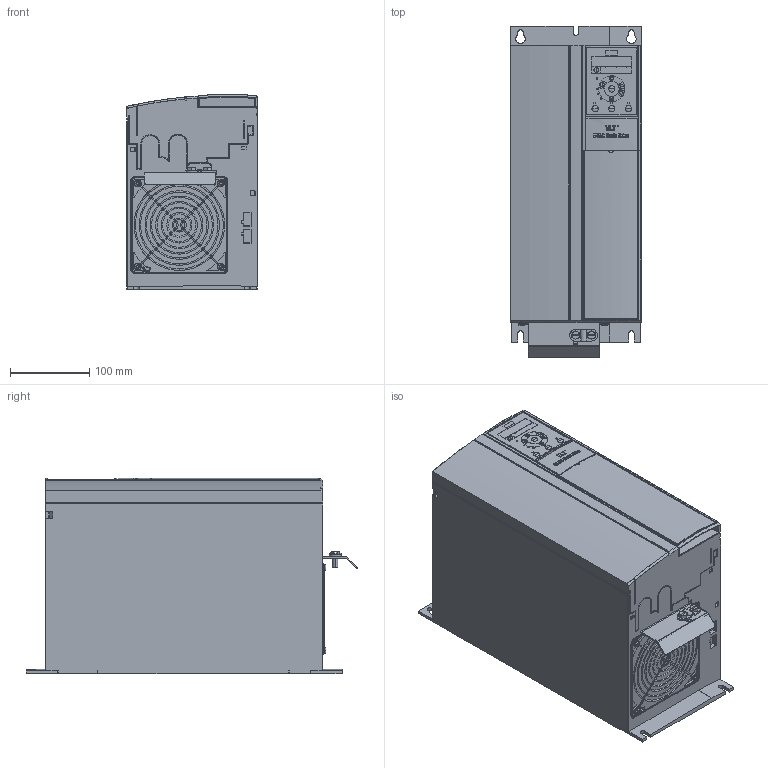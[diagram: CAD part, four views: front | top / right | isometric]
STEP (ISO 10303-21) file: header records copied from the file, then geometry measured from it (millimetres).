
FILE_DESCRIPTION((''),'2;1');
FILE_NAME('ASM0002_ASM','2011-09-09T',('cstephenkumar'),('Be-Atch INC. 1993'),'PRO/ENGINEER BY PARAMETRIC TECHNOLOGY CORPORATION, 2009360','PRO/ENGINEER BY PARAMETRIC TECHNOLOGY CORPORATION, 2009360','');
FILE_SCHEMA(('AUTOMOTIVE_DESIGN { 1 0 10303 214 1 1 1 1 }'));
Products named in the file (2): DANFOSS-FC101-H10-IP20_54; ASM0002_ASM
Assembly tree (1 placements, depth 2):
  ASM0002_ASM
    DANFOSS-FC101-H10-IP20_54
Bounding box: 165.09 x 419 x 247.45 mm (x, y, z)
Volume: 13834610.3 mm3; surface area: 481022.4 mm2
Topology: 1 solids, 1 shells, 2664 faces, 6783 edges, 4074 vertices
Faces by surface type: plane 1006, cylinder 965, torus 300, sphere 167, extrusion 132, bspline 57, cone 37
Entity records: 110154 total; most frequent: CARTESIAN_POINT 21205, ORIENTED_EDGE 13258, DIRECTION 13251, PRESENTATION_STYLE_ASSIGNMENT 7406, STYLED_ITEM 7007, CURVE_STYLE 6629, EDGE_CURVE 6629, AXIS2_PLACEMENT_3D 4851
